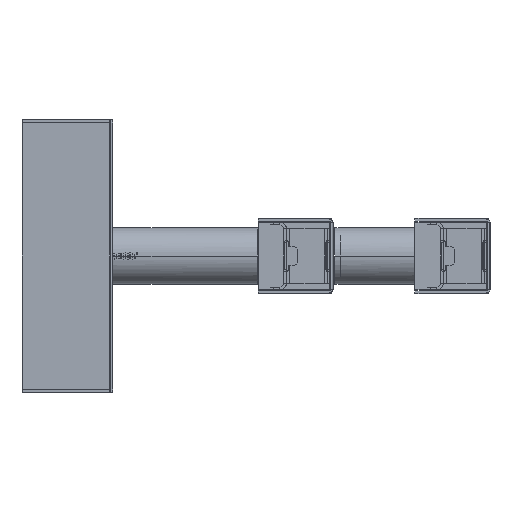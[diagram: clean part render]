
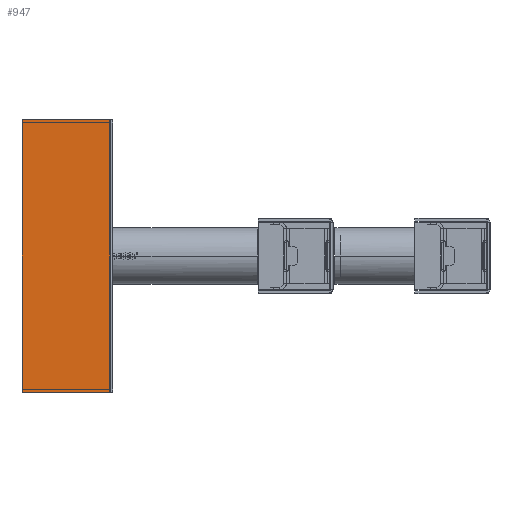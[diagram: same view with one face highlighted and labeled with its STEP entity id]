
A CAD part, left-side view. The second image highlights one B-rep face of the part: STEP entity #947.
In plain terms, the highlighted planar face has unit normal (-1, 0, 0).
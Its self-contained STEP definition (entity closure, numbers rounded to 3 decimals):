
#947=ADVANCED_FACE('',(#1822),#13562,.T.);
#1822=FACE_OUTER_BOUND('',#2739,.T.);
#2739=EDGE_LOOP('',(#6669,#6670,#6671,#6672));
#6669=ORIENTED_EDGE('',*,*,#9076,.T.);
#6670=ORIENTED_EDGE('',*,*,#9077,.F.);
#6671=ORIENTED_EDGE('',*,*,#9071,.T.);
#6672=ORIENTED_EDGE('',*,*,#9064,.F.);
#9064=EDGE_CURVE('',#12650,#12647,#11317,.T.);
#9071=EDGE_CURVE('',#12651,#12647,#11321,.T.);
#9076=EDGE_CURVE('',#12650,#12654,#11326,.T.);
#9077=EDGE_CURVE('',#12651,#12654,#11327,.T.);
#11317=B_SPLINE_CURVE_WITH_KNOTS('',1,(#43521,#43522),.UNSPECIFIED.,.F.,
 .F.,(2,2),(0.,120.),.UNSPECIFIED.);
#11321=B_SPLINE_CURVE_WITH_KNOTS('',1,(#43538,#43539),.UNSPECIFIED.,.F.,
 .F.,(2,2),(-38.5,0.),.UNSPECIFIED.);
#11326=B_SPLINE_CURVE_WITH_KNOTS('',1,(#43548,#43549),.UNSPECIFIED.,.F.,
 .F.,(2,2),(-38.5,0.),.UNSPECIFIED.);
#11327=B_SPLINE_CURVE_WITH_KNOTS('',1,(#43550,#43551),.UNSPECIFIED.,.F.,
 .F.,(2,2),(-120.,0.),.UNSPECIFIED.);
#12647=VERTEX_POINT('',#43347);
#12650=VERTEX_POINT('',#43350);
#12651=VERTEX_POINT('',#43351);
#12654=VERTEX_POINT('',#43354);
#13562=PLANE('',#14038);
#14038=AXIS2_PLACEMENT_3D('',#42998,#14497,$);
#14497=DIRECTION('',(-1.,0.,0.));
#42998=CARTESIAN_POINT('',(-91.2,3.65,72.));
#43347=CARTESIAN_POINT('',(-91.2,-38.7,-60.));
#43350=CARTESIAN_POINT('',(-91.2,-38.7,60.));
#43351=CARTESIAN_POINT('',(-91.2,-0.2,-60.));
#43354=CARTESIAN_POINT('',(-91.2,-0.2,60.));
#43521=CARTESIAN_POINT('',(-91.2,-38.7,60.));
#43522=CARTESIAN_POINT('',(-91.2,-38.7,-60.));
#43538=CARTESIAN_POINT('',(-91.2,-0.2,-60.));
#43539=CARTESIAN_POINT('',(-91.2,-38.7,-60.));
#43548=CARTESIAN_POINT('',(-91.2,-38.7,60.));
#43549=CARTESIAN_POINT('',(-91.2,-0.2,60.));
#43550=CARTESIAN_POINT('',(-91.2,-0.2,-60.));
#43551=CARTESIAN_POINT('',(-91.2,-0.2,60.));
